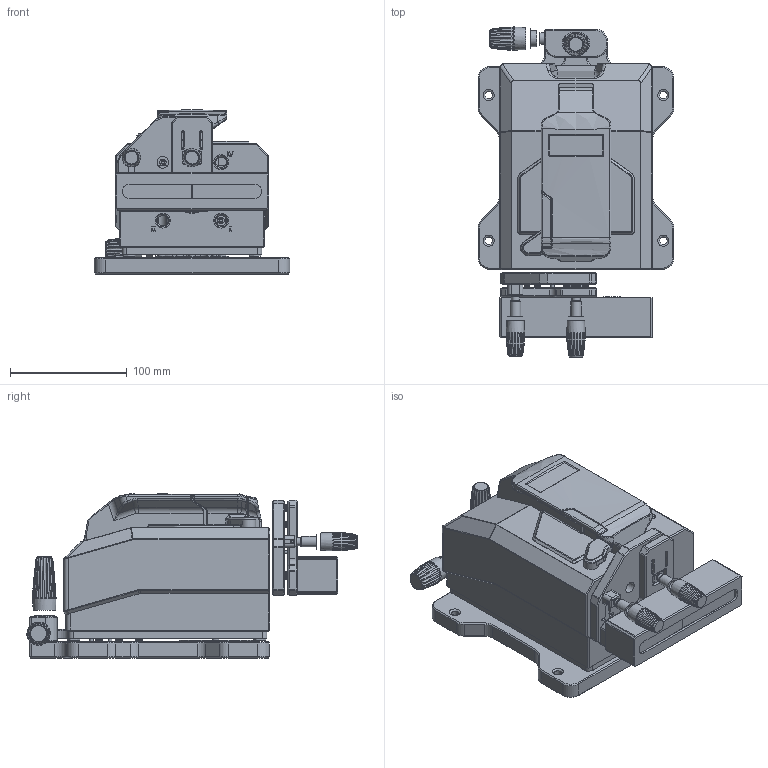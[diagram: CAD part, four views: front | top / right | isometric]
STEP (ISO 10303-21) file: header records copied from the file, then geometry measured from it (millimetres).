
FILE_DESCRIPTION(/* description */ (''),/* implementation_level */ '2;1');
FILE_NAME(/* name */ 'D:\Tresor\Designs\359-SP-15000-C\000-C6\359-000-000-099_Substitute_2.stp',/* time_stamp */ '2023-07-20T12:44:35+02:00',/* author */ ('Uwe Bartsch'),/* organization */ (''),/* preprocessor_version */ 'ST-DEVELOPER v18.1',/* originating_system */ 'Autodesk Inventor 2020',/* authorisation */ '');
FILE_SCHEMA (('AUTOMOTIVE_DESIGN { 1 0 10303 214 3 1 1 }'));
Products named in the file (1): 359-000-000-099_Substitute_2
Bounding box: 168 x 283.43 x 141 mm (x, y, z)
Volume: 1453236.4 mm3; surface area: 383871 mm2
Topology: 16 solids, 16 shells, 1931 faces, 4977 edges, 3118 vertices
Faces by surface type: plane 806, cylinder 503, cone 248, bspline 221, sphere 90, torus 63
Full cylindrical faces by diameter (mm): 3 x15, 5 x2, 5.5 x4, 5.8 x2, 6 x4, 6.2 x3, 6.5 x4, 7 x2, 8 x7, 9 x2, 9.5 x1, 10 x4, 12 x4, 12.8 x4, 14 x2, 36.5 x1, 62 x1
Entity records: 78308 total; most frequent: CARTESIAN_POINT 31707, ORIENTED_EDGE 9876, DIRECTION 9605, EDGE_CURVE 4938, AXIS2_PLACEMENT_3D 3536, VERTEX_POINT 3128, LINE 2533, VECTOR 2533
